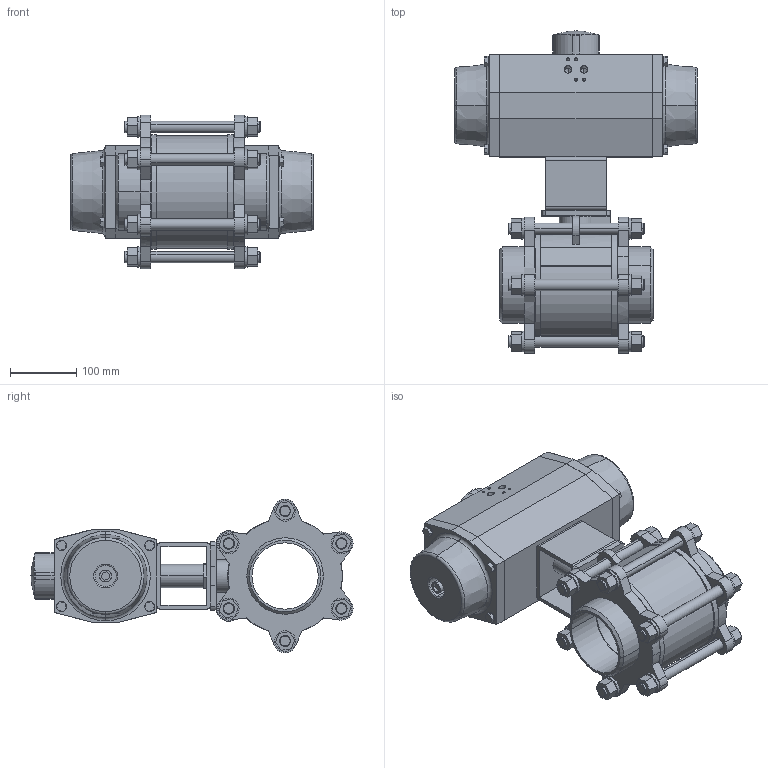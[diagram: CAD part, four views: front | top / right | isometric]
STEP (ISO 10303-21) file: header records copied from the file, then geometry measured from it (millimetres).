
FILE_DESCRIPTION (( 'STEP AP214' ), '1' );
FILE_NAME ('A13 DN100-4 BW + AP5D.STEP', '2012-04-23T09:20:07', ( '' ), ( '' ), 'SwSTEP 2.0', 'SolidWorks 2011', '' );
FILE_SCHEMA (( 'AUTOMOTIVE_DESIGN' ));
Length unit declared in the file: millimetre
Products named in the file (7): Brugstuk simplified_YB10080F10F10-4; AP5_Default<As Machined>; A13 DN100 Buttweld; Draadeind DN100x205; A13 Flens Buttweld DN100; A13 KK DN100 PN63; A13 DN100-4 BW + AP5D
Assembly tree (12 placements, depth 3):
  A13 DN100-4 BW + AP5D
    AP5_Default<As Machined>
    A13 DN100 Buttweld
      A13 KK DN100 PN63
      Draadeind DN100x205  x6
      A13 Flens Buttweld DN100  x2
    Brugstuk simplified_YB10080F10F10-4
Bounding box: 366 x 485.27 x 231 mm (x, y, z)
Volume: 10051908 mm3; surface area: 795879.5 mm2
Topology: 32 solids, 32 shells, 804 faces, 1890 edges, 1197 vertices
Faces by surface type: plane 433, cylinder 279, cone 78, torus 12, sphere 2
Entity records: 16580 total; most frequent: DIRECTION 2747, CARTESIAN_POINT 2635, ORIENTED_EDGE 2456, EDGE_CURVE 1228, AXIS2_PLACEMENT_3D 981, VERTEX_POINT 787, VECTOR 785, LINE 785
